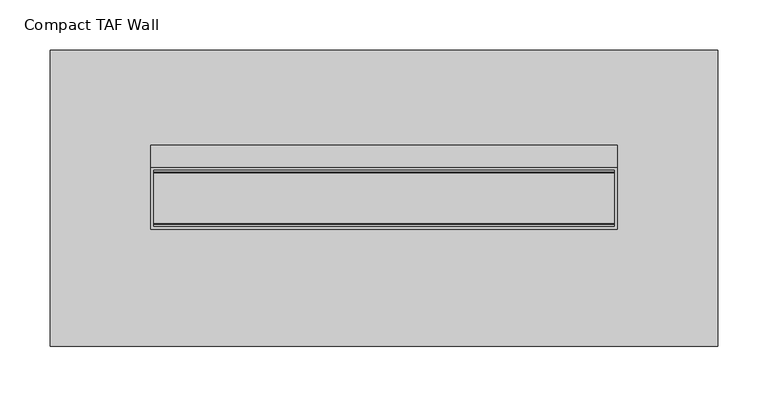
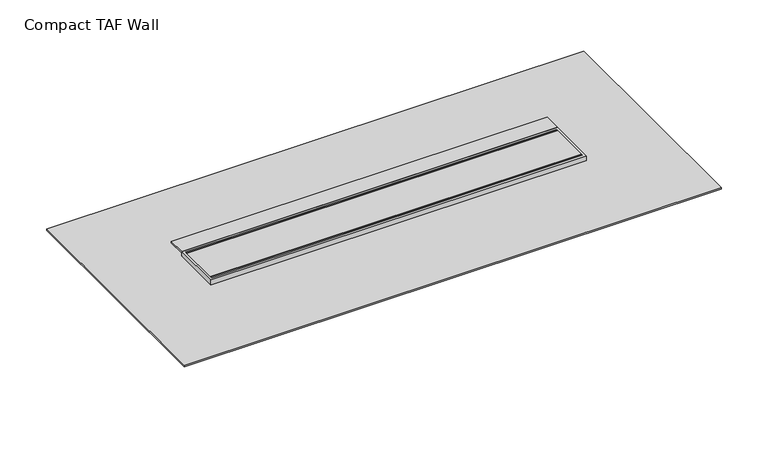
"""IFC4 building model written with IfcOpenShell, lengths in millimetres: sanitary terminal geometry, NLRS_PF_52_UN_Compact TAF_Easydrain : Compact TAF Wall."""

from ifc_helpers import new_model, si_unit, frame, origin, place, context, project, spatial, polyline, circle_curve, ellipse_curve, outline, extrude, source, transform, mapped, element, save
from ifc_brep_helpers import plane_surface, cylinder_surface, advanced_brep


def compact_taf_wall_d19b2d83(model_context):
    return source(origin(), model_context, "Body", "SolidModel", [
        extrude(outline(polyline([(229.5, 25.0), (229.5, -25.0), (-229.5, -25.0), (-229.5, 25.0), (229.5, 25.0)])), frame((0.0, 0.0, -12.0), z_axis=(0.0, 0.0, 1.0), x_axis=(1.0, 0.0, 0.0)), (0.0, 0.0, 1.0), 12.0),
        extrude(outline(polyline([(229.5, 26.0), (229.5, 25.0), (-229.5, 25.0), (-229.5, 26.0), (229.5, 26.0)])), frame((0.0, 0.0, -12.0), z_axis=(0.0, 0.0, 1.0), x_axis=(1.0, 0.0, 0.0)), (0.0, 0.0, 1.0), 12.0),
        extrude(outline(polyline([(229.5, -26.0), (-229.5, -26.0), (-229.5, -25.0), (229.5, -25.0), (229.5, -26.0)])), frame((0.0, 0.0, -12.0), z_axis=(0.0, 0.0, 1.0), x_axis=(1.0, 0.0, 0.0)), (0.0, 0.0, 1.0), 12.0),
        extrude(outline(polyline([(232.5, 53.0), (232.5, 31.0), (-232.5, 31.0), (-232.5, 53.0), (232.5, 53.0)])), frame((0.0, 0.0, -2.0), z_axis=(0.0, 0.0, 1.0), x_axis=(1.0, 0.0, 0.0)), (0.0, 0.0, 1.0), 2.0),
        extrude(outline(polyline([(332.5, 147.5), (332.5, -147.5), (-332.5, -147.5), (-332.5, 147.5), (332.5, 147.5)]), holes=[polyline([(232.5, 31.0), (-232.5, 31.0), (-232.5, -31.0), (232.5, -31.0), (232.5, 31.0)])]), frame((0.0, 0.0, -8.0), z_axis=(0.0, 0.0, 1.0), x_axis=(1.0, 0.0, 0.0)), (0.0, 0.0, 1.0), 2.0),
        advanced_brep(
        [(-232.5, -31.0, -25.0), (-110.0, -31.0, -27.0), (-110.0, -31.0, -70.0), (110.0, -31.0, -70.0), (110.0, -31.0, -27.0), (232.5, -31.0, -25.0), (232.5, -31.0, -9.0), (-232.5, -31.0, -9.0), (0.0, -31.0, -25.0), (0.0, -31.0, -65.0), (232.5, -31.0, 0.0), (-232.5, -31.0, 0.0), (-232.5, -31.0, -7.0), (232.5, -31.0, -7.0), (-232.5, 31.0, 0.0), (232.5, 31.0, 0.0), (232.5, 31.0, -7.0), (-232.5, 31.0, -7.0), (232.5, 31.0, -25.0), (110.0, 31.0, -27.0), (110.0, 31.0, -70.0), (-110.0, 31.0, -70.0), (-110.0, 31.0, -27.0), (-232.5, 31.0, -25.0), (-232.5, 31.0, -9.0), (232.5, 31.0, -9.0), (-212.5, 0.0, -25.3265306), (-172.5, 0.0, -25.9795918), (232.5, 30.0, -9.0), (232.5, -30.0, -9.0), (232.5, -30.0, -7.0), (232.5, 30.0, -7.0), (-229.5, 28.0, 0.0), (229.5, 28.0, 0.0), (229.5, -28.0, 0.0), (-229.5, -28.0, 0.0), (-232.5, -30.0, -9.0), (-232.5, 30.0, -9.0), (-232.5, 30.0, -7.0), (-232.5, -30.0, -7.0), (172.5, 0.0, -25.9795918), (212.5, 0.0, -25.3265306), (0.0, -50.0, -25.0), (0.0, -50.0, -65.0), (229.5, 28.0, -12.0), (-229.5, 28.0, -12.0), (-229.5, -28.0, -12.0), (229.5, -28.0, -12.0), (250.0, 47.5, -7.0), (-250.0, 47.5, -7.0), (-250.0, -64.5, -7.0), (250.0, -64.5, -7.0), (250.0, 47.5, -9.0), (250.0, -64.5, -9.0), (-250.0, -64.5, -9.0), (-250.0, 47.5, -9.0), (-212.5, 0.0, -70.0), (-172.5, 0.0, -70.0), (172.5, 0.0, -70.0), (212.5, 0.0, -70.0)],
        [
            (0, 1),
            (1, 2),
            (2, 3),
            (3, 4),
            (4, 5),
            (5, 6),
            (6, 7),
            (7, 0),
            (8, 9, circle_curve(frame((0.0, -31.0, -45.0), z_axis=(0.0, 1.0, 0.0), x_axis=(0.0, 0.0, -1.0)), 20.0)),
            (9, 8, circle_curve(frame((0.0, -31.0, -45.0), z_axis=(0.0, 1.0, 0.0), x_axis=(0.0, 0.0, -1.0)), 20.0)),
            (10, 11),
            (11, 12),
            (12, 13),
            (13, 10),
            (14, 15),
            (15, 16),
            (16, 17),
            (17, 14),
            (18, 19),
            (19, 20),
            (20, 21),
            (21, 22),
            (22, 23),
            (23, 24),
            (24, 25),
            (25, 18),
            (0, 23),
            (22, 1),
            (26, 27, ellipse_curve(frame((-192.5, 0.0, -25.6530612), z_axis=(0.01632435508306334, 0.0, 0.9998667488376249), x_axis=(-0.9998667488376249, 0.0, 0.01632435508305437)), 20.0026654, 20.0)),
            (27, 26, ellipse_curve(frame((-192.5, 0.0, -25.6530612), z_axis=(0.01632435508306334, 0.0, 0.9998667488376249), x_axis=(-0.9998667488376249, 0.0, 0.01632435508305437)), 20.0026654, 20.0)),
            (5, 18),
            (25, 28),
            (28, 29),
            (29, 6),
            (15, 10),
            (13, 30),
            (30, 31),
            (31, 16),
            (14, 11),
            (32, 33),
            (33, 34),
            (34, 35),
            (35, 32),
            (7, 36),
            (36, 37),
            (37, 24),
            (17, 38),
            (38, 39),
            (39, 12),
            (21, 2),
            (20, 3),
            (19, 4),
            (40, 41, ellipse_curve(frame((192.5, 0.0, -25.6530612), z_axis=(-0.016324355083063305, 0.0, 0.9998667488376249), x_axis=(0.9998667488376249, 0.0, 0.016324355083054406)), 20.0026654, 20.0)),
            (41, 40, ellipse_curve(frame((192.5, 0.0, -25.6530612), z_axis=(-0.016324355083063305, 0.0, 0.9998667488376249), x_axis=(0.9998667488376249, 0.0, 0.016324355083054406)), 20.0026654, 20.0)),
            (42, 43, circle_curve(frame((0.0, -50.0, -45.0), z_axis=(0.0, -1.0, 0.0), x_axis=(0.0, 0.0, -1.0)), 20.0)),
            (43, 42, circle_curve(frame((0.0, -50.0, -45.0), z_axis=(0.0, -1.0, 0.0), x_axis=(0.0, 0.0, -1.0)), 20.0)),
            (43, 9),
            (8, 42),
            (44, 45),
            (45, 46),
            (46, 47),
            (47, 44),
            (44, 33),
            (32, 45),
            (35, 46),
            (34, 47),
            (48, 49),
            (49, 50),
            (50, 51),
            (51, 48),
            (52, 53),
            (53, 54),
            (54, 55),
            (55, 52),
            (48, 52),
            (55, 49),
            (54, 50),
            (53, 51),
            (56, 57, circle_curve(frame((-192.5, 0.0, -70.0), z_axis=(0.0, 0.0, -1.0), x_axis=(1.0, 0.0, 0.0)), 20.0)),
            (57, 56, circle_curve(frame((-192.5, 0.0, -70.0), z_axis=(0.0, 0.0, -1.0), x_axis=(1.0, 0.0, 0.0)), 20.0)),
            (58, 59, circle_curve(frame((192.5, 0.0, -70.0), z_axis=(0.0, 0.0, -1.0), x_axis=(1.0, 0.0, 0.0)), 20.0)),
            (59, 58, circle_curve(frame((192.5, 0.0, -70.0), z_axis=(0.0, 0.0, -1.0), x_axis=(1.0, 0.0, 0.0)), 20.0)),
            (57, 27),
            (26, 56),
            (59, 41),
            (40, 58),
        ],
        [
            plane_surface(frame((-232.5, -31.0, -25.0), z_axis=(0.0, -1.0000000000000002, 0.0), x_axis=(0.9998667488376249, 0.0, -0.01632435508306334))),
            plane_surface(frame((-232.5, 31.0, -25.0), z_axis=(0.0, 1.0000000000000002, 0.0), x_axis=(-0.9998667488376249, 0.0, 0.01632435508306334))),
            plane_surface(frame((-232.5, -31.0, -25.0), z_axis=(-0.01632435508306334, 0.0, -0.9998667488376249), x_axis=(0.0, 1.0, 0.0))),
            plane_surface(frame((232.5, -31.0, -25.0), z_axis=(1.0, 0.0, 0.0), x_axis=(0.0, 1.0, 0.0))),
            plane_surface(frame((232.5, -31.0, 0.0), z_axis=(0.0, 0.0, 1.0), x_axis=(0.0, 1.0, 0.0))),
            plane_surface(frame((-232.5, -31.0, 0.0), z_axis=(-1.0, 0.0, 0.0), x_axis=(0.0, 1.0, 0.0))),
            plane_surface(frame((-110.0, -31.0, -27.0), z_axis=(-1.0, 0.0, 0.0), x_axis=(0.0, 1.0, 0.0))),
            plane_surface(frame((-110.0, -31.0, -70.0), z_axis=(0.0, 0.0, -1.0), x_axis=(0.0, 1.0, 0.0))),
            plane_surface(frame((110.0, -31.0, -70.0), z_axis=(1.0, 0.0, 0.0), x_axis=(0.0, 1.0, 0.0))),
            plane_surface(frame((110.0, -31.0, -27.0), z_axis=(0.016324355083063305, 0.0, -0.9998667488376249), x_axis=(0.0, 1.0, 0.0))),
            plane_surface(frame((0.0, -50.0, -45.0), z_axis=(0.0, -1.0, 0.0), x_axis=(1.0, 0.0, 0.0))),
            cylinder_surface(frame((0.0, 0.0, -45.0), z_axis=(0.0, 1.0, 0.0), x_axis=(0.0, 0.0, -1.0)), 20.0),
            plane_surface(frame((-229.5, 28.0, -12.0), z_axis=(0.0, 0.0, 1.0), x_axis=(1.0, 0.0, 0.0))),
            plane_surface(frame((229.5, 28.0, 25.5943996), z_axis=(0.0, -1.0, 0.0), x_axis=(0.0, 0.0, -1.0))),
            plane_surface(frame((-229.5, 28.0, 25.5943996), z_axis=(1.0, 0.0, 0.0), x_axis=(0.0, 0.0, -1.0))),
            plane_surface(frame((-229.5, -28.0, 25.5943996), z_axis=(0.0, 1.0, 0.0), x_axis=(0.0, 0.0, -1.0))),
            plane_surface(frame((229.5, -28.0, 25.5943996), z_axis=(-1.0, 0.0, 0.0), x_axis=(0.0, 0.0, -1.0))),
            plane_surface(frame((232.5, 30.0, -7.0), z_axis=(0.0, 0.0, 1.0), x_axis=(0.0, -1.0, 0.0))),
            plane_surface(frame((232.5, 30.0, -9.0), z_axis=(0.0, 0.0, -1.0), x_axis=(0.0, 1.0, 0.0))),
            plane_surface(frame((250.0, 47.5, -7.0), z_axis=(0.0, 1.0, 0.0), x_axis=(0.0, 0.0, -1.0))),
            plane_surface(frame((-250.0, 47.5, -7.0), z_axis=(-1.0, 0.0, 0.0), x_axis=(0.0, 0.0, -1.0))),
            plane_surface(frame((-250.0, -64.5, -7.0), z_axis=(0.0, -1.0, 0.0), x_axis=(0.0, 0.0, -1.0))),
            plane_surface(frame((250.0, -64.5, -7.0), z_axis=(1.0, 0.0, 0.0), x_axis=(0.0, 0.0, -1.0))),
            plane_surface(frame((-172.5, 0.0, -70.0), z_axis=(0.0, 0.0, -1.0), x_axis=(0.0, -1.0, 0.0))),
            cylinder_surface(frame((-192.5, 0.0, -70.0), z_axis=(0.0, 0.0, 1.0), x_axis=(1.0, 0.0, 0.0)), 20.0),
            cylinder_surface(frame((192.5, 0.0, 0.0), z_axis=(0.0, 0.0, 1.0), x_axis=(1.0, 0.0, 0.0)), 20.0),
        ],
        [
            (0, [[1, 2, 3, 4, 5, 6, 7, 8], [9, 10]]),
            (0, [[11, 12, 13, 14]]),
            (1, [[15, 16, 17, 18]]),
            (1, [[19, 20, 21, 22, 23, 24, 25, 26]]),
            (2, [[-1, 27, -23, 28], [29, 30]]),
            (3, [[31, -26, 32, 33, 34, -6]]),
            (3, [[35, -14, 36, 37, 38, -16]]),
            (4, [[-11, -35, -15, 39], [40, 41, 42, 43]]),
            (5, [[-27, -8, 44, 45, 46, -24]]),
            (5, [[-39, -18, 47, 48, 49, -12]]),
            (6, [[-2, -28, -22, 50]]),
            (7, [[-3, -50, -21, 51]]),
            (8, [[-4, -51, -20, 52]]),
            (9, [[-5, -52, -19, -31], [53, 54]]),
            (10, [[55, 56]]),
            (11, [[-56, 57, -9, 58]]),
            (11, [[-55, -58, -10, -57]]),
            (12, [[59, 60, 61, 62]]),
            (13, [[-59, 63, -40, 64]]),
            (14, [[-60, -64, -43, 65]]),
            (15, [[-61, -65, -42, 66]]),
            (16, [[-62, -66, -41, -63]]),
            (17, [[67, 68, 69, 70], [-13, -49, -48, -47, -17, -38, -37, -36]]),
            (18, [[71, 72, 73, 74], [-7, -34, -33, -32, -25, -46, -45, -44]]),
            (19, [[-67, 75, -74, 76]]),
            (20, [[-68, -76, -73, 77]]),
            (21, [[-69, -77, -72, 78]]),
            (22, [[-70, -78, -71, -75]]),
            (23, [[79, 80]]),
            (23, [[81, 82]]),
            (24, [[-80, 83, -29, 84]]),
            (24, [[-79, -84, -30, -83]]),
            (25, [[-82, 85, -53, 86]]),
            (25, [[-81, -86, -54, -85]]),
        ],
    ),
    ])


if __name__ == "__main__":
    model = new_model("IFC4")
    model_context = context("Model", 3, world=origin())
    ifc_project = project(units=[si_unit("LENGTHUNIT", "METRE", prefix="MILLI")], contexts=[model_context])
    site = spatial("IfcSite", under=ifc_project)
    building = spatial("IfcBuilding", under=site)
    placement = place(None, origin())
    compact_taf_wall_shape = compact_taf_wall_d19b2d83(model_context)
    element("IfcSanitaryTerminal", 1, ObjectType="NLRS_PF_52_UN_Compact TAF_Easydrain : Compact TAF Wall", at=placement, inside=building, context=model_context, shape_type="MappedRepresentation", body=[
        mapped(compact_taf_wall_shape, transform((0.0, 0.0, 0.0), x_axis=(1.0, 0.0, 0.0), y_axis=(0.0, 1.0, 0.0), z_axis=(0.0, 0.0, 1.0))),
    ])
    save(model, "model.ifc")
